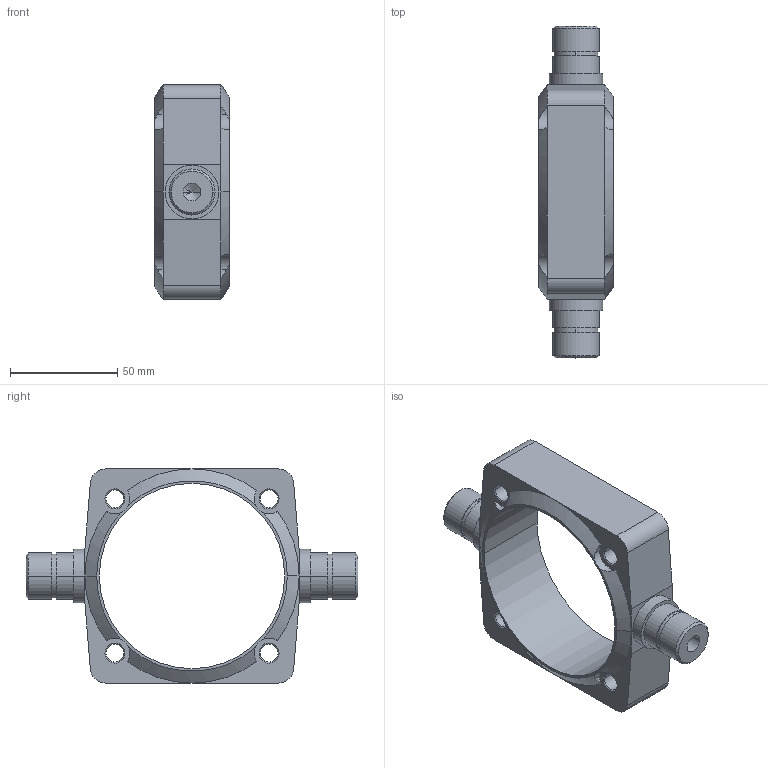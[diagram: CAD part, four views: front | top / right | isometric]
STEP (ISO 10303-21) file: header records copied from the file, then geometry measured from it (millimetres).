
FILE_DESCRIPTION(('CATIA V5 STEP Exchange'),'2;1');
FILE_NAME('C:\Users\Sohrabi\Desktop\PNC-H\H-PNC-80.stp','2018-03-10T07:48:38+00:00',('none'),('none'),'CATIA Version 5-6 Release 2016','CATIA V5 STEP AP203','none');
FILE_SCHEMA(('CONFIG_CONTROL_DESIGN'));
Length unit declared in the file: millimetre
Products named in the file (1): H-PNC-80
Bounding box: 35 x 155 x 100 mm (x, y, z)
Volume: 125682.8 mm3; surface area: 35716.3 mm2
Topology: 1 solids, 1 shells, 126 faces, 342 edges, 222 vertices
Faces by surface type: cylinder 64, cone 36, plane 26
Entity records: 3751 total; most frequent: CARTESIAN_POINT 822, ORIENTED_EDGE 676, DIRECTION 444, EDGE_CURVE 338, AXIS2_PLACEMENT_3D 252, VERTEX_POINT 220, CIRCLE 182, EDGE_LOOP 146
